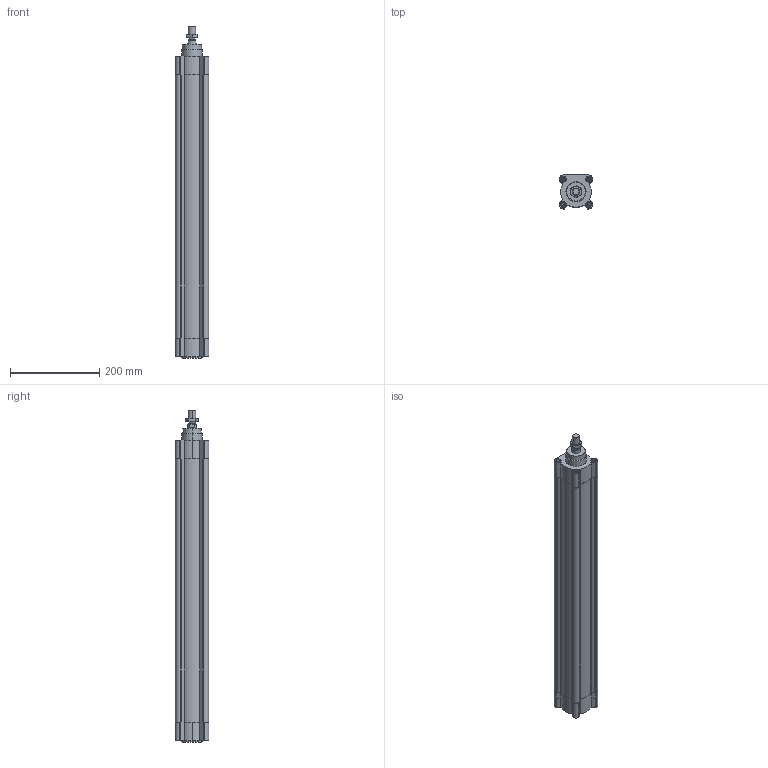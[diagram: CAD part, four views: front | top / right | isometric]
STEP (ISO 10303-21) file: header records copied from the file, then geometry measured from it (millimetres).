
FILE_DESCRIPTION (( 'STEP AP214' ), '1' );
FILE_NAME ('CPME63-550.STEP', '2025-05-19T11:01:31', ( '' ), ( '' ), 'SwSTEP 2.0', 'SolidWorks 2019', '' );
FILE_SCHEMA (( 'AUTOMOTIVE_DESIGN' ));
Length unit declared in the file: millimetre
Products named in the file (1): CPME63-550
Bounding box: 75 x 75 x 743.1 mm (x, y, z)
Volume: 1652530.9 mm3; surface area: 436723.7 mm2
Topology: 3 solids, 3 shells, 639 faces, 1655 edges, 1050 vertices
Faces by surface type: plane 325, cylinder 200, cone 106, torus 8
Entity records: 26997 total; most frequent: CARTESIAN_POINT 4403, ORIENTED_EDGE 3278, DIRECTION 3187, EDGE_CURVE 1639, AXIS2_PLACEMENT_3D 1131, VERTEX_POINT 1050, VECTOR 925, LINE 925
